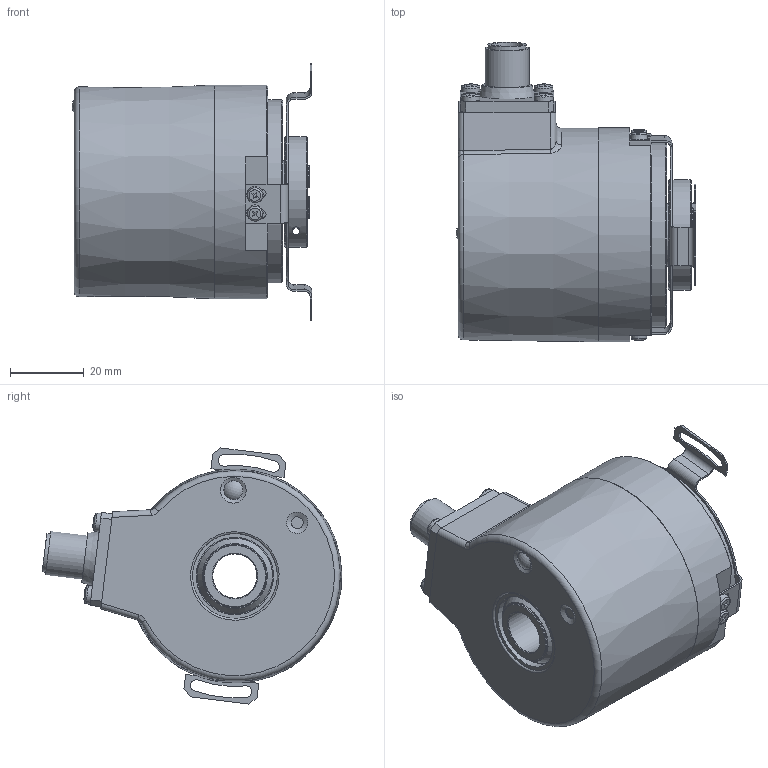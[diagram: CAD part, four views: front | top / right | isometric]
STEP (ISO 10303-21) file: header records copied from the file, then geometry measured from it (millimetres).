
FILE_DESCRIPTION (( 'STEP AP214' ), '1' );
FILE_NAME ('8.F5883.54X6.XXXX.STEP', '2014-09-16T09:51:31', ( 'HeirlerN' ), ( 'Microsoft' ), 'SwSTEP 2.0', 'SolidWorks 2013', '' );
FILE_SCHEMA (( 'AUTOMOTIVE_DESIGN' ));
Length unit declared in the file: millimetre
Products named in the file (1): 8.F5883.54X6.XXXX
Bounding box: 65.07 x 81.25 x 69.44 mm (x, y, z)
Surface area: 28394.2 mm2 (no closed solid volume)
Topology: 0 solids, 28 shells, 356 faces, 1009 edges, 664 vertices
Faces by surface type: plane 199, cylinder 90, cone 30, torus 18, sphere 13, bspline 6
Full cylindrical faces by diameter (mm): 0.8 x8, 2 x2, 2.05 x2, 3.2 x1, 4.5 x1, 5 x4, 5.2 x2, 10.5 x1, 12 x2, 17 x2, 21 x1, 30 x1, 32 x1, 34 x1, 58 x1
Entity records: 15250 total; most frequent: CARTESIAN_POINT 2568, DIRECTION 1858, ORIENTED_EDGE 1584, EDGE_CURVE 896, AXIS2_PLACEMENT_3D 674, VERTEX_POINT 627, VECTOR 510, LINE 510
